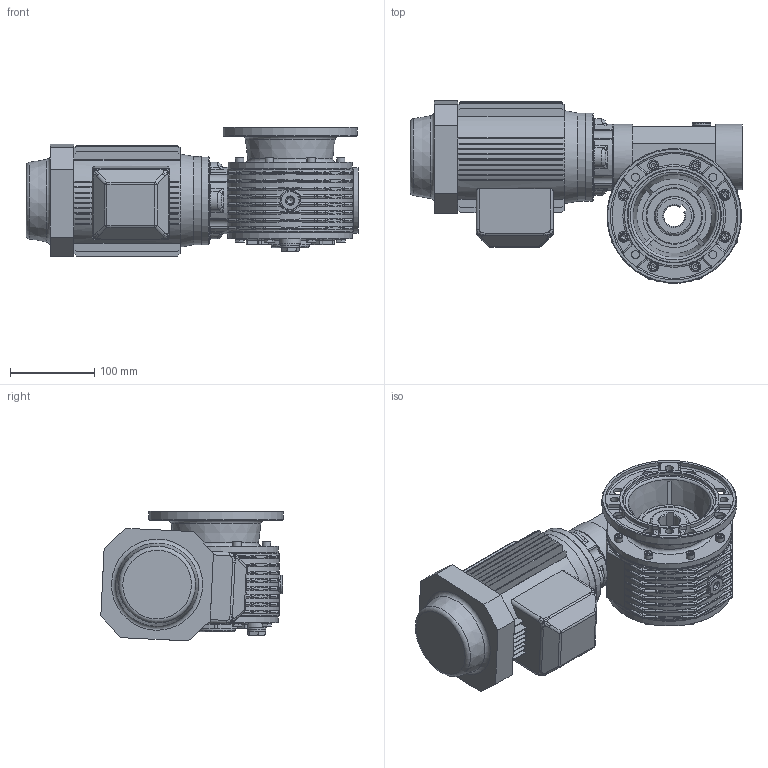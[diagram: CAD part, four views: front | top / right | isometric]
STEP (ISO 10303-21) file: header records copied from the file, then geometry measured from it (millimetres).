
FILE_DESCRIPTION((''),'2;1');
FILE_NAME('Y:\Archivi Inventor\Prog_01\GRAND_30\Figurini\MRV30 sito\71\MRV30_F1_71_B14.stp','2013-02-06T09:45:10',('tech3'),(''),'Autodesk Inventor 2013','Autodesk Inventor 2013','');
FILE_SCHEMA(('AUTOMOTIVE_DESIGN { 1 0 10303 214 1 1 1 1 }'));
Length unit declared in the file: millimetre
Products named in the file (18): MRV30_71_B14; MRV30; 0103001-A2 fig; 0103008.A1 fig F=25; PARAOLIO 45x65x10; RCA_52x7; Guarnizione 3_8 GAS; Tappo 3_8 GAS_esagn_incsst; 0103029; DIN EN 24017 M6 x 20; 0103028; 0103002-A0 fig; 0103003.A0 fig; DIN EN ISO 4762 M6 x 16; Tappo3_8 GAS; UNI 5931 M 8 x  25; 0103006; motori B14 71
Assembly tree (39 placements, depth 3):
  MRV30_71_B14
    MRV30
      0103001-A2 fig
      0103008.A1 fig F=25
      PARAOLIO 45x65x10  x2
      RCA_52x7
      Guarnizione 3_8 GAS  x3
      Tappo 3_8 GAS_esagn_incsst  x2
      0103029  x2
      DIN EN 24017 M6 x 20  x8
      0103028
      0103002-A0 fig
      0103003.A0 fig
      DIN EN ISO 4762 M6 x 16  x8
      Tappo3_8 GAS
      UNI 5931 M 8 x  25  x4
    0103006
    motori B14 71
Bounding box: 394.4 x 216.57 x 154.22 mm (x, y, z)
Volume: 4590546.2 mm3; surface area: 655718.4 mm2
Topology: 38 solids, 41 shells, 2022 faces, 5028 edges, 3009 vertices
Faces by surface type: plane 924, cylinder 613, torus 193, cone 130, bspline 122, sphere 40
Full cylindrical faces by diameter (mm): 2 x2, 4.917 x20, 6 x16, 6.5 x24, 6.647 x4, 7 x12, 8 x6, 8.5 x8, 8.88 x8, 9.5 x4, 10 x8, 11 x8, 13 x12, 13.046 x1, 14 x1, 14.95 x3, 16.3 x3, 16.5 x2, 22 x6, 25 x1, 43 x1, 45 x6, 45.76 x1, 50.881 x2, 52 x6, 55 x1, 60.5 x2, 65 x4, 70 x1, 77 x1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
Entity records: 58388 total; most frequent: CARTESIAN_POINT 17998, DIRECTION 8412, ORIENTED_EDGE 7942, EDGE_CURVE 3971, AXIS2_PLACEMENT_3D 3264, VERTEX_POINT 2516, EDGE_LOOP 2064, VECTOR 1884
